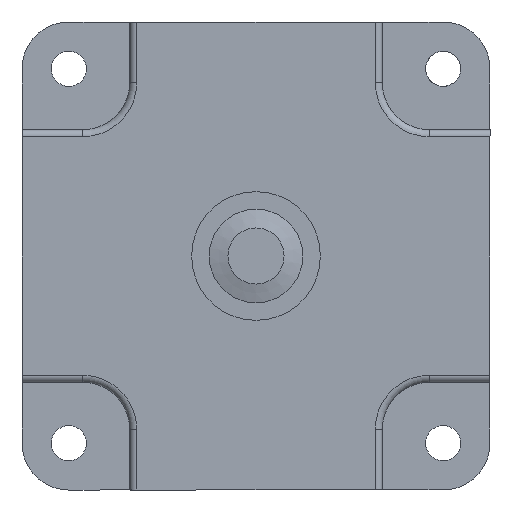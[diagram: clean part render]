
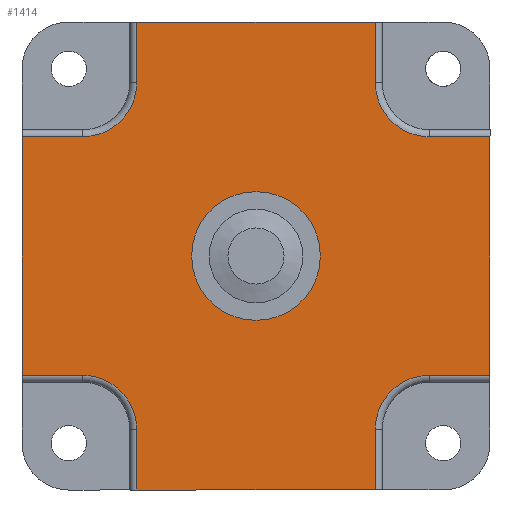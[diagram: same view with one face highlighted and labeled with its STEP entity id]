
A CAD part, front view. The second image highlights one B-rep face of the part: STEP entity #1414.
In plain terms, the highlighted planar face has unit normal (0, -1, 0).
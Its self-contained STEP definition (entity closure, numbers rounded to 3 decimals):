
#282=CARTESIAN_POINT('',(12.75,-39.5,10.));
#283=VERTEX_POINT('',#282);
#284=CARTESIAN_POINT('',(10.,-39.5,10.));
#285=DIRECTION('',(1.,0.,0.));
#286=DIRECTION('',(0.,-1.,0.));
#287=AXIS2_PLACEMENT_3D('',#284,#286,#285);
#288=CIRCLE('',#287,2.75);
#289=EDGE_CURVE('',#283,#283,#288,.T.);
#719=CARTESIAN_POINT('',(15.1,-39.5,0.));
#720=VERTEX_POINT('',#719);
#728=CARTESIAN_POINT('',(4.9,-39.5,0.));
#729=VERTEX_POINT('',#728);
#730=CARTESIAN_POINT('',(4.9,-39.5,0.));
#731=DIRECTION('',(1.,0.,0.));
#732=VECTOR('',#731,10.2);
#733=LINE('',#730,#732);
#734=EDGE_CURVE('',#729,#720,#733,.T.);
#907=CARTESIAN_POINT('',(2.6,-39.5,4.9));
#908=VERTEX_POINT('',#907);
#916=CARTESIAN_POINT('',(0.,-39.5,4.9));
#917=VERTEX_POINT('',#916);
#918=CARTESIAN_POINT('',(2.6,-39.5,4.9));
#919=DIRECTION('',(-1.,0.,0.));
#920=VECTOR('',#919,2.6);
#921=LINE('',#918,#920);
#922=EDGE_CURVE('',#908,#917,#921,.T.);
#940=CARTESIAN_POINT('',(4.9,-39.5,2.6));
#941=VERTEX_POINT('',#940);
#949=CARTESIAN_POINT('',(2.6,-39.5,2.6));
#950=DIRECTION('',(1.,0.,0.));
#951=DIRECTION('',(0.,-1.,0.));
#952=AXIS2_PLACEMENT_3D('',#949,#951,#950);
#953=CIRCLE('',#952,2.3);
#954=EDGE_CURVE('',#941,#908,#953,.T.);
#969=CARTESIAN_POINT('',(4.9,-39.5,0.));
#970=DIRECTION('',(0.,0.,1.));
#971=VECTOR('',#970,2.6);
#972=LINE('',#969,#971);
#973=EDGE_CURVE('',#729,#941,#972,.T.);
#985=CARTESIAN_POINT('',(15.1,-39.5,2.6));
#986=VERTEX_POINT('',#985);
#994=CARTESIAN_POINT('',(15.1,-39.5,2.6));
#995=DIRECTION('',(0.,0.,-1.));
#996=VECTOR('',#995,2.6);
#997=LINE('',#994,#996);
#998=EDGE_CURVE('',#986,#720,#997,.T.);
#1009=CARTESIAN_POINT('',(17.4,-39.5,4.9));
#1010=VERTEX_POINT('',#1009);
#1018=CARTESIAN_POINT('',(17.4,-39.5,4.9));
#1019=CARTESIAN_POINT('',(17.213,-39.5,4.9));
#1020=CARTESIAN_POINT('',(16.897,-39.5,4.848));
#1021=CARTESIAN_POINT('',(16.64,-39.5,4.775));
#1022=CARTESIAN_POINT('',(16.393,-39.5,4.672));
#1023=CARTESIAN_POINT('',(16.161,-39.5,4.542));
#1024=CARTESIAN_POINT('',(15.944,-39.5,4.386));
#1025=CARTESIAN_POINT('',(15.747,-39.5,4.205));
#1026=CARTESIAN_POINT('',(15.573,-39.5,4.003));
#1027=CARTESIAN_POINT('',(15.423,-39.5,3.783));
#1028=CARTESIAN_POINT('',(15.299,-39.5,3.546));
#1029=CARTESIAN_POINT('',(15.204,-39.5,3.297));
#1030=CARTESIAN_POINT('',(15.138,-39.5,3.038));
#1031=CARTESIAN_POINT('',(15.1,-39.5,2.754));
#1032=CARTESIAN_POINT('',(15.1,-39.5,2.6));
#1033=B_SPLINE_CURVE_WITH_KNOTS('',2,(#1018,#1019,#1020,#1021,#1022,#1023,#1024,#1025,#1026,#1027,#1028,#1029,#1030,#1031,#1032),.UNSPECIFIED.,.F.,.U.,(3,1,1,1,1,1,1,1,1,1,1,1,1,3),(0.,0.103,0.177,0.251,0.325,0.399,0.472,0.546,0.62,0.694,0.768,0.841,0.915,1.),.UNSPECIFIED.);
#1034=EDGE_CURVE('',#1010,#986,#1033,.T.);
#1045=CARTESIAN_POINT('',(20.,-39.5,4.9));
#1046=VERTEX_POINT('',#1045);
#1054=CARTESIAN_POINT('',(20.,-39.5,4.9));
#1055=DIRECTION('',(-1.,0.,0.));
#1056=VECTOR('',#1055,2.6);
#1057=LINE('',#1054,#1056);
#1058=EDGE_CURVE('',#1046,#1010,#1057,.T.);
#1081=CARTESIAN_POINT('',(4.9,-39.5,20.));
#1082=VERTEX_POINT('',#1081);
#1090=CARTESIAN_POINT('',(15.1,-39.5,20.));
#1091=VERTEX_POINT('',#1090);
#1092=CARTESIAN_POINT('',(15.1,-39.5,20.));
#1093=DIRECTION('',(-1.,0.,0.));
#1094=VECTOR('',#1093,10.2);
#1095=LINE('',#1092,#1094);
#1096=EDGE_CURVE('',#1091,#1082,#1095,.T.);
#1275=CARTESIAN_POINT('',(0.,-39.5,15.1));
#1276=VERTEX_POINT('',#1275);
#1277=CARTESIAN_POINT('',(0.,-39.5,15.1));
#1278=DIRECTION('',(0.,0.,-1.));
#1279=VECTOR('',#1278,10.2);
#1280=LINE('',#1277,#1279);
#1281=EDGE_CURVE('',#1276,#917,#1280,.T.);
#1304=CARTESIAN_POINT('',(20.,-39.5,15.1));
#1305=VERTEX_POINT('',#1304);
#1313=CARTESIAN_POINT('',(20.,-39.5,4.9));
#1314=DIRECTION('',(0.,0.,1.));
#1315=VECTOR('',#1314,10.2);
#1316=LINE('',#1313,#1315);
#1317=EDGE_CURVE('',#1046,#1305,#1316,.T.);
#1326=CARTESIAN_POINT('',(10.,-39.5,10.));
#1327=DIRECTION('',(1.,0.,0.));
#1328=DIRECTION('',(0.,-1.,0.));
#1329=AXIS2_PLACEMENT_3D('',#1326,#1328,#1327);
#1330=PLANE('',#1329);
#1331=ORIENTED_EDGE('',*,*,#922,.F.);
#1332=ORIENTED_EDGE('',*,*,#954,.F.);
#1333=ORIENTED_EDGE('',*,*,#973,.F.);
#1334=ORIENTED_EDGE('',*,*,#734,.T.);
#1335=ORIENTED_EDGE('',*,*,#998,.F.);
#1336=ORIENTED_EDGE('',*,*,#1034,.F.);
#1337=ORIENTED_EDGE('',*,*,#1058,.F.);
#1338=ORIENTED_EDGE('',*,*,#1317,.T.);
#1339=CARTESIAN_POINT('',(17.4,-39.5,15.1));
#1340=VERTEX_POINT('',#1339);
#1341=CARTESIAN_POINT('',(17.4,-39.5,15.1));
#1342=DIRECTION('',(1.,0.,0.));
#1343=VECTOR('',#1342,2.6);
#1344=LINE('',#1341,#1343);
#1345=EDGE_CURVE('',#1340,#1305,#1344,.T.);
#1346=ORIENTED_EDGE('E240',*,*,#1345,.F.);
#1347=CARTESIAN_POINT('',(15.1,-39.5,17.4));
#1348=VERTEX_POINT('',#1347);
#1349=CARTESIAN_POINT('',(15.1,-39.5,17.4));
#1350=CARTESIAN_POINT('',(15.1,-39.5,17.213));
#1351=CARTESIAN_POINT('',(15.152,-39.5,16.897));
#1352=CARTESIAN_POINT('',(15.225,-39.5,16.64));
#1353=CARTESIAN_POINT('',(15.328,-39.5,16.393));
#1354=CARTESIAN_POINT('',(15.458,-39.5,16.161));
#1355=CARTESIAN_POINT('',(15.614,-39.5,15.944));
#1356=CARTESIAN_POINT('',(15.795,-39.5,15.747));
#1357=CARTESIAN_POINT('',(15.997,-39.5,15.573));
#1358=CARTESIAN_POINT('',(16.217,-39.5,15.423));
#1359=CARTESIAN_POINT('',(16.454,-39.5,15.299));
#1360=CARTESIAN_POINT('',(16.703,-39.5,15.204));
#1361=CARTESIAN_POINT('',(16.962,-39.5,15.138));
#1362=CARTESIAN_POINT('',(17.246,-39.5,15.1));
#1363=CARTESIAN_POINT('',(17.4,-39.5,15.1));
#1364=B_SPLINE_CURVE_WITH_KNOTS('',2,(#1349,#1350,#1351,#1352,#1353,#1354,#1355,#1356,#1357,#1358,#1359,#1360,#1361,#1362,#1363),.UNSPECIFIED.,.F.,.U.,(3,1,1,1,1,1,1,1,1,1,1,1,1,3),(0.,0.103,0.177,0.251,0.325,0.399,0.472,0.546,0.62,0.694,0.768,0.841,0.915,1.),.UNSPECIFIED.);
#1365=EDGE_CURVE('',#1348,#1340,#1364,.T.);
#1366=ORIENTED_EDGE('E233',*,*,#1365,.F.);
#1367=CARTESIAN_POINT('',(15.1,-39.5,20.));
#1368=DIRECTION('',(0.,0.,-1.));
#1369=VECTOR('',#1368,2.6);
#1370=LINE('',#1367,#1369);
#1371=EDGE_CURVE('',#1091,#1348,#1370,.T.);
#1372=ORIENTED_EDGE('E224',*,*,#1371,.F.);
#1373=ORIENTED_EDGE('E224',*,*,#1096,.T.);
#1374=CARTESIAN_POINT('',(4.9,-39.5,17.4));
#1375=VERTEX_POINT('',#1374);
#1376=CARTESIAN_POINT('',(4.9,-39.5,17.4));
#1377=DIRECTION('',(0.,0.,1.));
#1378=VECTOR('',#1377,2.6);
#1379=LINE('',#1376,#1378);
#1380=EDGE_CURVE('',#1375,#1082,#1379,.T.);
#1381=ORIENTED_EDGE('E241',*,*,#1380,.F.);
#1382=CARTESIAN_POINT('',(2.6,-39.5,15.1));
#1383=VERTEX_POINT('',#1382);
#1384=CARTESIAN_POINT('',(2.6,-39.5,15.1));
#1385=CARTESIAN_POINT('',(2.787,-39.5,15.1));
#1386=CARTESIAN_POINT('',(3.103,-39.5,15.152));
#1387=CARTESIAN_POINT('',(3.36,-39.5,15.225));
#1388=CARTESIAN_POINT('',(3.607,-39.5,15.328));
#1389=CARTESIAN_POINT('',(3.839,-39.5,15.458));
#1390=CARTESIAN_POINT('',(4.056,-39.5,15.614));
#1391=CARTESIAN_POINT('',(4.253,-39.5,15.795));
#1392=CARTESIAN_POINT('',(4.427,-39.5,15.997));
#1393=CARTESIAN_POINT('',(4.577,-39.5,16.217));
#1394=CARTESIAN_POINT('',(4.701,-39.5,16.454));
#1395=CARTESIAN_POINT('',(4.796,-39.5,16.703));
#1396=CARTESIAN_POINT('',(4.862,-39.5,16.962));
#1397=CARTESIAN_POINT('',(4.9,-39.5,17.246));
#1398=CARTESIAN_POINT('',(4.9,-39.5,17.4));
#1399=B_SPLINE_CURVE_WITH_KNOTS('',2,(#1384,#1385,#1386,#1387,#1388,#1389,#1390,#1391,#1392,#1393,#1394,#1395,#1396,#1397,#1398),.UNSPECIFIED.,.F.,.U.,(3,1,1,1,1,1,1,1,1,1,1,1,1,3),(0.,0.103,0.177,0.251,0.325,0.399,0.472,0.546,0.62,0.694,0.768,0.841,0.915,1.),.UNSPECIFIED.);
#1400=EDGE_CURVE('',#1383,#1375,#1399,.T.);
#1401=ORIENTED_EDGE('E236',*,*,#1400,.F.);
#1402=CARTESIAN_POINT('',(0.,-39.5,15.1));
#1403=DIRECTION('',(1.,0.,0.));
#1404=VECTOR('',#1403,2.6);
#1405=LINE('',#1402,#1404);
#1406=EDGE_CURVE('',#1276,#1383,#1405,.T.);
#1407=ORIENTED_EDGE('E229',*,*,#1406,.F.);
#1408=ORIENTED_EDGE('E229',*,*,#1281,.T.);
#1409=EDGE_LOOP('',(#1331,#1332,#1333,#1334,#1335,#1336,#1337,#1338,#1346,#1366,#1372,#1373,#1381,#1401,#1407,#1408));
#1410=FACE_OUTER_BOUND('',#1409,.T.);
#1411=ORIENTED_EDGE('',*,*,#289,.F.);
#1412=EDGE_LOOP('',(#1411));
#1413=FACE_BOUND('',#1412,.T.);
#1414=ADVANCED_FACE('F25',(#1410,#1413),#1330,.T.);
